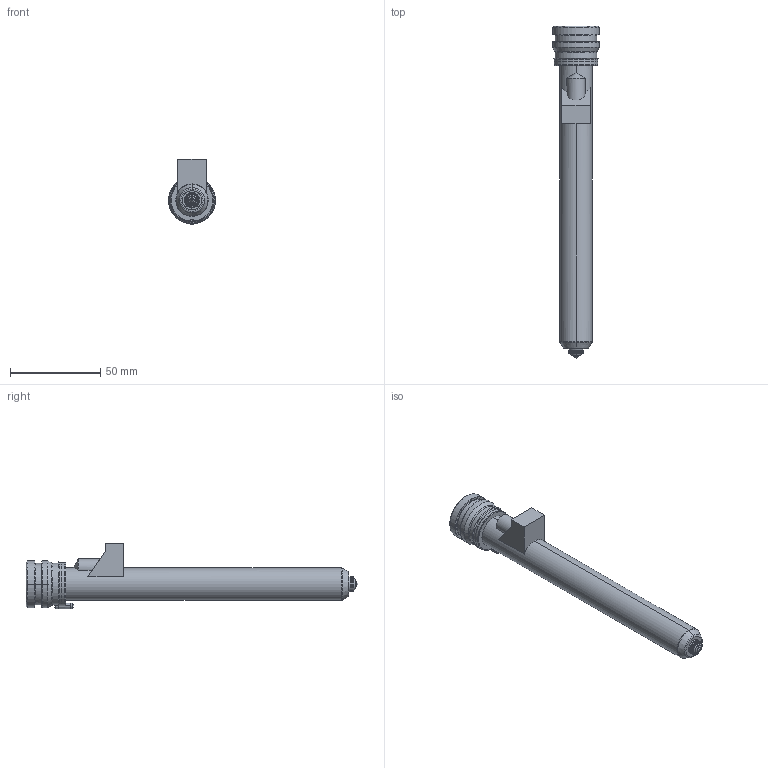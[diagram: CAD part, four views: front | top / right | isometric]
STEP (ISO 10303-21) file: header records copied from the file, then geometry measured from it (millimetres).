
FILE_DESCRIPTION((''),'2;1');
FILE_NAME('TH18166-M-1GLT-PK-JG','2023-12-14T',('umhib'),('Thermoplay S.p.A.'),'PRO/ENGINEER BY PARAMETRIC TECHNOLOGY CORPORATION, 2017170','PRO/ENGINEER BY PARAMETRIC TECHNOLOGY CORPORATION, 2017170','');
FILE_SCHEMA(('CONFIG_CONTROL_DESIGN'));
Length unit declared in the file: millimetre
Products named in the file (1): TH18166-M-1GLT-PK-JG
Bounding box: 26 x 184 x 36.1 mm (x, y, z)
Volume: 36899.3 mm3; surface area: 28024.3 mm2
Topology: 1 solids, 2 shells, 413 faces, 1052 edges, 647 vertices
Faces by surface type: cylinder 160, plane 92, cone 64, torus 64, bspline 22, sphere 9, extrusion 2
Entity records: 16927 total; most frequent: CARTESIAN_POINT 4929, DIRECTION 2166, ORIENTED_EDGE 2078, EDGE_CURVE 1041, AXIS2_PLACEMENT_3D 881, VERTEX_POINT 647, CIRCLE 491, EDGE_LOOP 441
